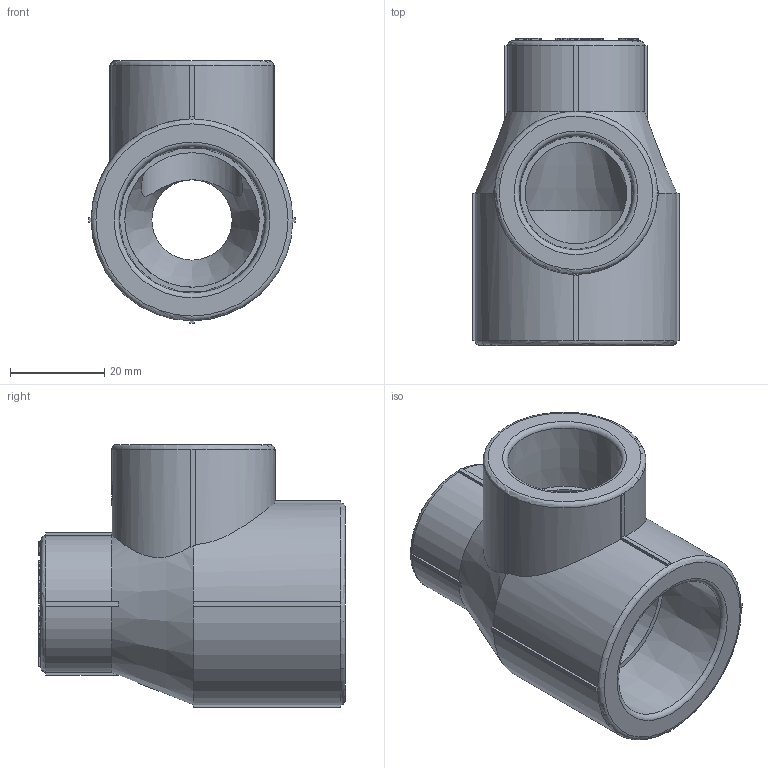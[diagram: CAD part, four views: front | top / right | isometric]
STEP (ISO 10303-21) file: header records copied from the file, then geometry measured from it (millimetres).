
FILE_DESCRIPTION(('STEP AP203'), '1');
FILE_NAME('ÂÐ.752241.059 - VTp.735.0.032025020', '', ('UNSPECIFIED'), ('UNSPECIFIED'), 'C3D Converter', 'C3D Toolkit', '');
FILE_SCHEMA(('CONFIG_CONTROL_DESIGN'));
Length unit declared in the file: millimetre
Products named in the file (1): ВР.752241.059
Bounding box: 43.8 x 65 x 55.65 mm (x, y, z)
Volume: 46746.9 mm3; surface area: 17047 mm2
Topology: 1 solids, 1 shells, 1216 faces, 3419 edges, 2268 vertices
Faces by surface type: extrusion 719, plane 446, cylinder 40, torus 6, cone 5
Full cylindrical faces by diameter (mm): 6 x1, 17 x1, 21.5 x1, 28.5 x1
Entity records: 44613 total; most frequent: CARTESIAN_POINT 16920, ORIENTED_EDGE 6812, DIRECTION 3431, EDGE_CURVE 3406, VECTOR 2315, VERTEX_POINT 2268, B_SPLINE_CURVE_WITH_KNOTS 2179, LINE 1596
